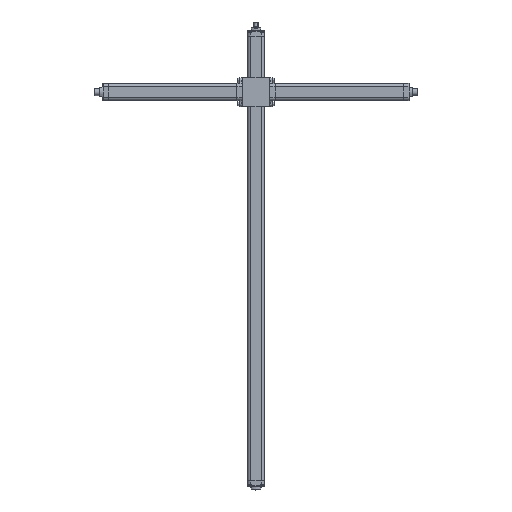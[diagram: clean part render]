
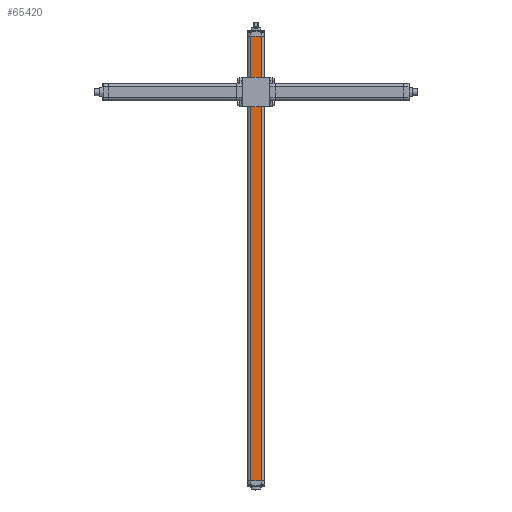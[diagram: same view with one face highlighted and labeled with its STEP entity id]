
A CAD part, top view. The second image highlights one B-rep face of the part: STEP entity #65420.
In plain terms, the highlighted planar face has unit normal (0, 0, 1) as drawn and (0, -1, 0) by its records, which use the part's own axes.
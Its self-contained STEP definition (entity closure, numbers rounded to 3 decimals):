
#26616=DIRECTION('',(0.,0.,-1.));
#26617=VECTOR('',#26616,915.);
#26618=CARTESIAN_POINT('',(56.459,0.395,
915.));
#26619=LINE('',#26618,#26617);
#26681=DIRECTION('',(1.,0.,0.));
#26682=VECTOR('',#26681,22.);
#26683=CARTESIAN_POINT('',(34.459,0.395,
0.));
#26684=LINE('',#26683,#26682);
#26685=DIRECTION('',(0.,0.,-1.));
#26686=VECTOR('',#26685,915.);
#26687=CARTESIAN_POINT('',(34.459,0.395,
915.));
#26688=LINE('',#26687,#26686);
#26689=DIRECTION('',(1.,0.,0.));
#26690=VECTOR('',#26689,22.);
#26691=CARTESIAN_POINT('',(34.459,0.395,
915.));
#26692=LINE('',#26691,#26690);
#41841=CARTESIAN_POINT('',(34.46,0.395,
915.));
#41842=VERTEX_POINT('',#41841);
#41843=CARTESIAN_POINT('',(56.459,0.395,
915.));
#41844=VERTEX_POINT('',#41843);
#42444=CARTESIAN_POINT('',(34.46,0.395,
0.));
#42445=VERTEX_POINT('',#42444);
#42446=CARTESIAN_POINT('',(56.459,0.395,
0.));
#42447=VERTEX_POINT('',#42446);
#65407=CARTESIAN_POINT('',(45.459,0.395,457.5));
#65408=DIRECTION('',(0.,1.,0.));
#65409=DIRECTION('',(1.,0.,0.));
#65410=AXIS2_PLACEMENT_3D('',#65407,#65408,#65409);
#65411=PLANE('',#65410);
#65412=ORIENTED_EDGE('',*,*,#65392,.F.);
#65414=ORIENTED_EDGE('',*,*,#65413,.F.);
#65416=ORIENTED_EDGE('',*,*,#65415,.T.);
#65417=ORIENTED_EDGE('',*,*,#65286,.T.);
#65418=EDGE_LOOP('',(#65412,#65414,#65416,#65417));
#65419=FACE_OUTER_BOUND('',#65418,.F.);
#65420=ADVANCED_FACE('',(#65419),#65411,.F.);
#65286=EDGE_CURVE('',#41844,#42447,#26619,.T.);
#65392=EDGE_CURVE('',#42445,#42447,#26684,.T.);
#65413=EDGE_CURVE('',#41842,#42445,#26688,.T.);
#65415=EDGE_CURVE('',#41842,#41844,#26692,.T.);
